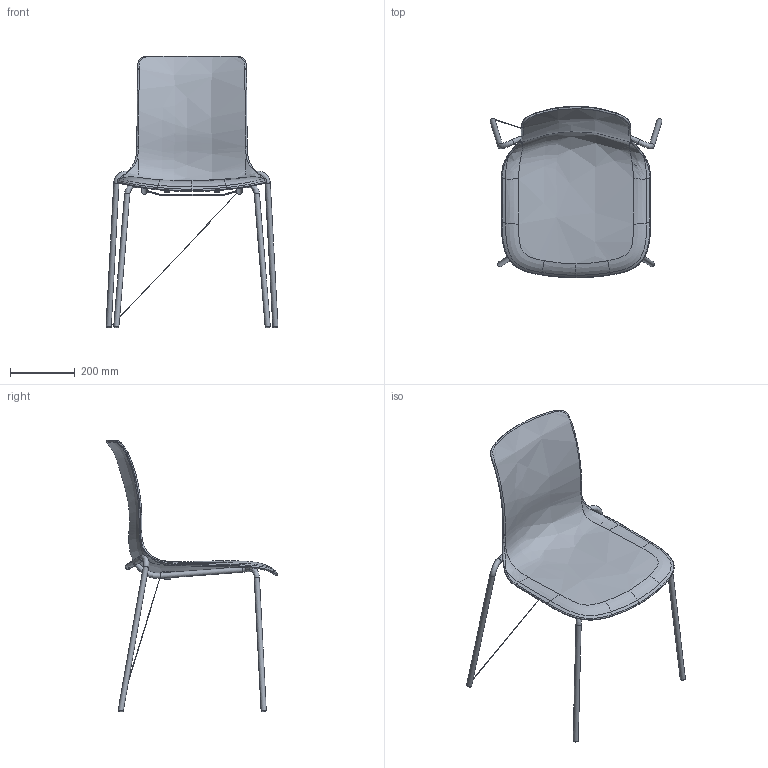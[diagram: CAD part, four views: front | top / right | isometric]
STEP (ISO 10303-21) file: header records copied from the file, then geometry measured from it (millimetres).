
FILE_DESCRIPTION(/* description */ (''),/* implementation_level */ '2;1');
FILE_NAME(/* name */ 'P8235.stp',/* time_stamp */ '2024-11-05T15:47:19+01:00',/* author */ ('Tecnico3'),/* organization */ (''),/* preprocessor_version */ 'ST-DEVELOPER v20',/* originating_system */ 'Autodesk Inventor 2025',/* authorisation */ '');
FILE_SCHEMA (('AUTOMOTIVE_DESIGN { 1 0 10303 214 3 1 1 }'));
Products named in the file (1): P8235_Semplifica_1
Bounding box: 530.15 x 527.99 x 837.51 mm (x, y, z)
Volume: 3296319.7 mm3; surface area: 851135.1 mm2
Topology: 3 solids, 3 shells, 1645 faces, 4090 edges, 2487 vertices
Faces by surface type: bspline 1213, plane 317, cylinder 41, cone 40, torus 34
Full cylindrical faces by diameter (mm): 16 x8
Entity records: 153037 total; most frequent: CARTESIAN_POINT 119918, ORIENTED_EDGE 8138, DIRECTION 4345, EDGE_CURVE 4069, VERTEX_POINT 2487, B_SPLINE_CURVE_WITH_KNOTS 1957, AXIS2_PLACEMENT_3D 1837, EDGE_LOOP 1706
